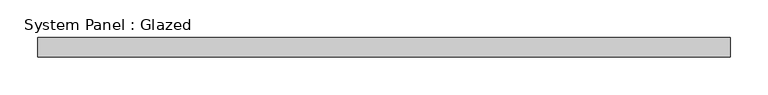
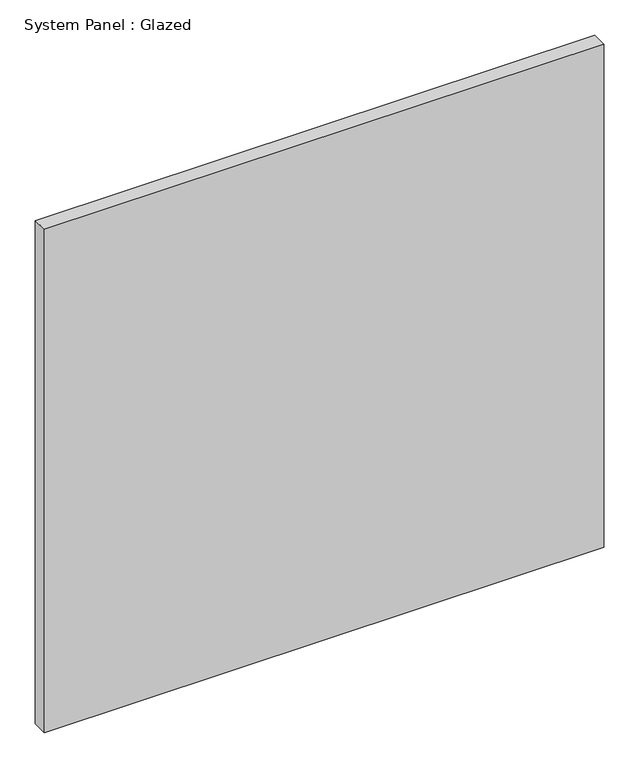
"""IFC4 building model written with IfcOpenShell, lengths in millimetres: plate geometry, System Panel : Glazed."""

import ifcopenshell
import ifcopenshell.guid

model = None  # the IFC model being written
_history = None  # IfcOwnerHistory: only IFC2X3 demands one
_inside = {}  # id of a spatial element -> (the spatial element, [elements in it])
_under = {}  # id of a project, library or spatial element -> (it, [spatial elements below it])
_declared = {}  # id of a project -> (the project, [libraries it declares])
_typed = {}  # id of a type object -> (the type object, [elements of that type])
_made_of = {}  # id of a material, layer set ... -> (it, [elements and type objects made of it])


def new_model(schema):
    """Start an empty IFC model of exactly this schema.

    Asked for "IFC4X3", IfcOpenShell would pick the latest addendum, in which some entities
    have other attributes; the version numbers below select the first issue.
    IFC2X3 requires an IfcOwnerHistory on every rooted entity: one is made here for all.
    """
    global model, _history
    if schema == "IFC4X3":
        model = ifcopenshell.file(schema_version=(4, 3, 0, 0))
    else:
        model = ifcopenshell.file(schema=schema)
    _inside.clear()
    _under.clear()
    _declared.clear()
    _typed.clear()
    _made_of.clear()
    _history = None
    if model.schema == "IFC2X3":
        org = make("IfcOrganization", Name="unknown")
        user = make(
            "IfcPersonAndOrganization",
            ThePerson=make("IfcPerson", FamilyName="unknown"),
            TheOrganization=org,
        )
        app = make(
            "IfcApplication",
            ApplicationDeveloper=org,
            Version="unknown",
            ApplicationFullName="unknown",
            ApplicationIdentifier="unknown",
        )
        _history = make(
            "IfcOwnerHistory",
            OwningUser=user,
            OwningApplication=app,
            ChangeAction="ADDED",
            CreationDate=0,
        )
    return model


def make(cls, **values):
    """One entity of the class cls with the attributes given. An attribute that is None is left unset."""
    return model.create_entity(
        cls, **{name: value for name, value in values.items() if value is not None}
    )


def rooted(cls, **values):
    """An entity with a GlobalId (a new one), such as an element, a storey or a relation."""
    return make(cls, GlobalId=ifcopenshell.guid.new(), OwnerHistory=_history, **values)


def si_unit(unit_type, name, prefix=None):
    """IfcSIUnit, for example si_unit("LENGTHUNIT", "METRE", prefix="MILLI")."""
    return make("IfcSIUnit", UnitType=unit_type, Prefix=prefix, Name=name)


def assignment(units):
    """IfcUnitAssignment: the units of a project."""
    return None if units is None else make("IfcUnitAssignment", Units=units)


def point(xyz):
    """IfcCartesianPoint."""
    return None if xyz is None else make("IfcCartesianPoint", Coordinates=xyz)


def direction(xyz):
    """IfcDirection."""
    return None if xyz is None else make("IfcDirection", DirectionRatios=xyz)


def frame(location, z_axis=None, x_axis=None):
    """IfcAxis2Placement3D, a coordinate frame: its origin and axes. An axis left out is left unset."""
    return make(
        "IfcAxis2Placement3D",
        Location=point(location),
        Axis=direction(z_axis),
        RefDirection=direction(x_axis),
    )


def origin():
    """The frame at (0, 0, 0) with its axes left unset."""
    return frame((0.0, 0.0, 0.0))


def origin_with_axes():
    """The frame at (0, 0, 0) with the z axis (0, 0, 1) and the x axis (1, 0, 0) written out."""
    return frame((0.0, 0.0, 0.0), z_axis=(0.0, 0.0, 1.0), x_axis=(1.0, 0.0, 0.0))


def place(relative_to, where):
    """IfcLocalPlacement: puts the frame where relative to a parent placement (None: the world)."""
    return make(
        "IfcLocalPlacement", PlacementRelTo=relative_to, RelativePlacement=where
    )


def context(
    kind, dimensions, precision=None, world=None, true_north=None, identifier=None
):
    """IfcGeometricRepresentationContext, for example the 3D "Model" context."""
    return make(
        "IfcGeometricRepresentationContext",
        ContextIdentifier=identifier,
        ContextType=kind,
        CoordinateSpaceDimension=dimensions,
        Precision=precision,
        WorldCoordinateSystem=world,
        TrueNorth=true_north,
    )


def project(units=None, contexts=None):
    """IfcProject with its units and contexts."""
    return rooted(
        "IfcProject",
        Name="project",
        RepresentationContexts=contexts,
        UnitsInContext=assignment(units),
    )


def spatial(cls, under=None, at=None, **own):
    """A site, building, storey or space (cls), placed at a placement, below another one or the project."""
    s = rooted(cls, ObjectPlacement=at, **own)
    if under is not None:
        _under.setdefault(under.id(), (under, []))[1].append(s)
    return s


def polyline(points):
    """IfcPolyline through the points."""
    return make("IfcPolyline", Points=[point(p) for p in points])


def outline(outer, holes=None, kind="AREA"):
    """IfcArbitraryClosedProfileDef: a profile drawn as a closed curve; with holes, ...WithVoids."""
    if holes is None:
        return make("IfcArbitraryClosedProfileDef", ProfileType=kind, OuterCurve=outer)
    return make(
        "IfcArbitraryProfileDefWithVoids",
        ProfileType=kind,
        OuterCurve=outer,
        InnerCurves=holes,
    )


def extrude(swept, where, along, depth):
    """IfcExtrudedAreaSolid: the profile swept, set in the frame where, extruded along a direction by depth."""
    return make(
        "IfcExtrudedAreaSolid",
        SweptArea=swept,
        Position=where,
        ExtrudedDirection=direction(along),
        Depth=depth,
    )


def shape(context_of_items, identifier, shape_type, items):
    """IfcShapeRepresentation: the items that make up one representation, for example the "Body"."""
    return make(
        "IfcShapeRepresentation",
        ContextOfItems=context_of_items,
        RepresentationIdentifier=identifier,
        RepresentationType=shape_type,
        Items=items,
    )


def source(mapping_origin, context_of_items, identifier, shape_type, items):
    """IfcRepresentationMap: a shape defined once, which mapped items show again and again."""
    return make(
        "IfcRepresentationMap",
        MappingOrigin=mapping_origin,
        MappedRepresentation=shape(context_of_items, identifier, shape_type, items),
    )


def transform(
    local_origin,
    x_axis=None,
    y_axis=None,
    z_axis=None,
    scale=None,
    scale2=None,
    scale3=None,
    uniform=True,
):
    """IfcCartesianTransformationOperator3D, or its non-uniform kind. x_axis, y_axis, z_axis: its Axis1, 2, 3."""
    if uniform:
        return make(
            "IfcCartesianTransformationOperator3D",
            Axis1=direction(x_axis),
            Axis2=direction(y_axis),
            LocalOrigin=point(local_origin),
            Scale=scale,
            Axis3=direction(z_axis),
        )
    return make(
        "IfcCartesianTransformationOperator3DnonUniform",
        Axis1=direction(x_axis),
        Axis2=direction(y_axis),
        LocalOrigin=point(local_origin),
        Scale=scale,
        Axis3=direction(z_axis),
        Scale2=scale2,
        Scale3=scale3,
    )


def mapped(mapping_source, mapping_target):
    """IfcMappedItem: shows the shape of a source again, moved by a transform."""
    return make(
        "IfcMappedItem", MappingSource=mapping_source, MappingTarget=mapping_target
    )


def made_of(thing, what):
    """Note that an element or type object is made of a material, layer set ...; save() writes the relation."""
    if what is not None:
        _made_of.setdefault(what.id(), (what, []))[1].append(thing)
    return thing


def element(
    cls,
    number,
    at=None,
    inside=None,
    cuts=None,
    type_object=None,
    material=None,
    context=None,
    identifier="Body",
    shape_type=None,
    held_by="IfcProductDefinitionShape",
    body=None,
    shapes=None,
    **own,
):
    """One element of the class cls, such as IfcWall. Its Tag is "e" and its number.

    at: its placement. inside: the storey or other place that contains it. cuts: it is an
    opening in that element (IfcRelVoidsElement). A single representation is given by context,
    identifier, shape_type and body (its items); several are given by shapes. held_by: the class
    of the entity that holds the representations. save() writes the other relations.
    """
    e = rooted(cls, Tag="e%d" % number, ObjectPlacement=at, **own)
    if body is not None:
        shapes = [shape(context, identifier, shape_type, body)]
    if shapes is not None:
        e.Representation = make(held_by, Representations=shapes)
    if inside is not None:
        _inside.setdefault(inside.id(), (inside, []))[1].append(e)
    if cuts is not None:
        rooted(
            "IfcRelVoidsElement", RelatingBuildingElement=cuts, RelatedOpeningElement=e
        )
    if type_object is not None:
        _typed.setdefault(type_object.id(), (type_object, []))[1].append(e)
    return made_of(e, material)


def aggregate(whole, parts):
    """IfcRelAggregates: a whole, such as a stair, and the parts it consists of."""
    return rooted("IfcRelAggregates", RelatingObject=whole, RelatedObjects=parts)


def save(model, path):
    """Write the relations noted so far, then the file.

    IfcRelAggregates (storeys below a building ...), IfcRelContainedInSpatialStructure (elements
    in a storey), IfcRelDefinesByType, IfcRelAssociatesMaterial and IfcRelDeclares: one each for
    every whole, place, type object, material and project.
    """
    for whole, parts in _under.values():
        aggregate(whole, parts)
    for where, things in _inside.values():
        rooted(
            "IfcRelContainedInSpatialStructure",
            RelatedElements=things,
            RelatingStructure=where,
        )
    for kind, things in _typed.values():
        rooted("IfcRelDefinesByType", RelatedObjects=things, RelatingType=kind)
    for what, things in _made_of.values():
        rooted("IfcRelAssociatesMaterial", RelatedObjects=things, RelatingMaterial=what)
    for by, libraries in _declared.values():
        rooted("IfcRelDeclares", RelatingContext=by, RelatedDefinitions=libraries)
    model.write(path)


def system_panel_glazed_63e32c76(model_context):
    return source(origin(), model_context, "Body", "SweptSolid", [
        extrude(outline(polyline([(457.2, 19.05), (-457.2, 19.05), (-457.2, 44.45), (457.2, 44.45), (457.2, 19.05)])), origin_with_axes(), (0.0, 0.0, 1.0), 869.95),
    ])


if __name__ == "__main__":
    model = new_model("IFC4")
    model_context = context("Model", 3, world=origin())
    ifc_project = project(units=[si_unit("LENGTHUNIT", "METRE", prefix="MILLI")], contexts=[model_context])
    site = spatial("IfcSite", under=ifc_project)
    building = spatial("IfcBuilding", under=site)
    placement = place(None, origin())
    system_panel_glazed_shape = system_panel_glazed_63e32c76(model_context)
    element("IfcPlate", 1, ObjectType="System Panel : Glazed", at=placement, inside=building, context=model_context, shape_type="MappedRepresentation", body=[
        mapped(system_panel_glazed_shape, transform((0.0, 0.0, 0.0), x_axis=(1.0, 0.0, 0.0), y_axis=(0.0, 1.0, 0.0), z_axis=(0.0, 0.0, 1.0))),
    ])
    save(model, "model.ifc")
